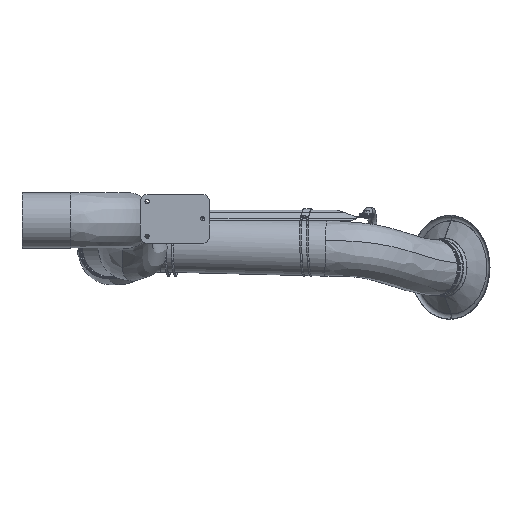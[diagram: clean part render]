
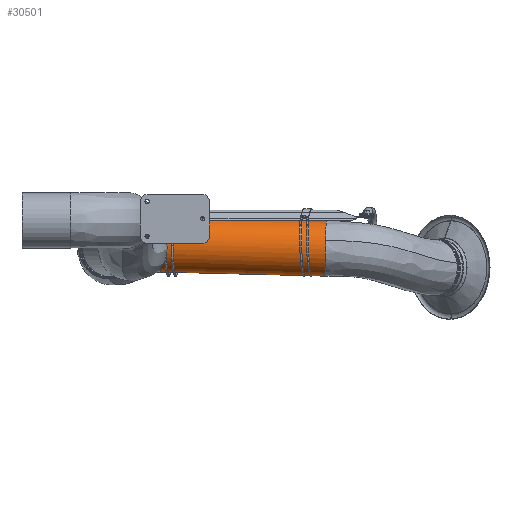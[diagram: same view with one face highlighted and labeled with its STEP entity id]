
A CAD part, left-side view. The second image highlights one B-rep face of the part: STEP entity #30501.
In plain terms, the highlighted free-form (B-spline) face has degree [3, 3] with [7, 6] control points.
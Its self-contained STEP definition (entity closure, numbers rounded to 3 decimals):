
#29599=CARTESIAN_POINT('',(665.795,-461.211,
-160.676));
#29600=CARTESIAN_POINT('',(665.795,-408.656,
-159.376));
#29601=CARTESIAN_POINT('',(665.795,-303.545,
-156.776));
#29602=CARTESIAN_POINT('',(665.795,-145.878,
-152.876));
#29603=CARTESIAN_POINT('',(665.795,-40.767,
-150.276));
#29604=CARTESIAN_POINT('',(665.795,11.789,
-148.976));
#29609=CARTESIAN_POINT('',(665.795,-463.19,-80.7));
#29610=DIRECTION('',(0.,-1.,-0.025));
#29611=DIRECTION('',(0.,-0.025,1.));
#29612=AXIS2_PLACEMENT_3D('',#29609,#29610,#29611);
#29617=CARTESIAN_POINT('',(665.795,-463.19,-80.7));
#29618=DIRECTION('',(0.,-1.,-0.025));
#29619=DIRECTION('',(-0.957,-0.007,0.291));
#29620=AXIS2_PLACEMENT_3D('',#29617,#29618,#29619);
#29641=CARTESIAN_POINT('',(665.795,-465.168,
-0.724));
#29642=CARTESIAN_POINT('',(665.795,-412.612,
0.576));
#29643=CARTESIAN_POINT('',(665.795,-307.501,
3.176));
#29644=CARTESIAN_POINT('',(665.795,-149.835,
7.076));
#29645=CARTESIAN_POINT('',(665.795,-44.723,
9.676));
#29646=CARTESIAN_POINT('',(665.795,7.832,10.976));
#29914=CARTESIAN_POINT('',(665.795,9.81,-69.));
#29915=DIRECTION('',(0.,1.,0.025));
#29916=DIRECTION('',(0.,0.025,-1.));
#29917=AXIS2_PLACEMENT_3D('',#29914,#29915,#29916);
#30406=CARTESIAN_POINT('',(665.795,11.789,
-148.976));
#30407=CARTESIAN_POINT('',(665.795,7.832,10.976));
#30408=VERTEX_POINT('',#30406);
#30409=VERTEX_POINT('',#30407);
#30432=VERTEX_POINT('',#29599);
#30433=VERTEX_POINT('',#29641);
#30442=CARTESIAN_POINT('',(589.249,-463.765,
-57.455));
#30443=VERTEX_POINT('',#30442);
#30446=CARTESIAN_POINT('',(670.819,-470.675,
-160.752));
#30447=CARTESIAN_POINT('',(670.819,-467.522,
-160.674));
#30448=CARTESIAN_POINT('',(670.819,-306.702,
-156.696));
#30449=CARTESIAN_POINT('',(670.819,-142.729,
-152.64));
#30450=CARTESIAN_POINT('',(670.819,18.091,
-148.662));
#30451=CARTESIAN_POINT('',(670.819,21.245,
-148.584));
#30452=CARTESIAN_POINT('',(621.684,-470.599,
-163.842));
#30453=CARTESIAN_POINT('',(621.684,-467.446,
-163.764));
#30454=CARTESIAN_POINT('',(621.684,-306.626,
-159.786));
#30455=CARTESIAN_POINT('',(621.684,-142.652,
-155.73));
#30456=CARTESIAN_POINT('',(621.684,18.168,
-151.752));
#30457=CARTESIAN_POINT('',(621.684,21.321,
-151.674));
#30458=CARTESIAN_POINT('',(585.795,-471.432,
-130.151));
#30459=CARTESIAN_POINT('',(585.795,-468.279,
-130.073));
#30460=CARTESIAN_POINT('',(585.795,-307.459,
-126.095));
#30461=CARTESIAN_POINT('',(585.795,-143.486,
-122.039));
#30462=CARTESIAN_POINT('',(585.795,17.334,
-118.061));
#30463=CARTESIAN_POINT('',(585.795,20.488,
-117.983));
#30464=CARTESIAN_POINT('',(585.795,-472.65,-80.934));
#30465=CARTESIAN_POINT('',(585.795,-469.496,-80.856));
#30466=CARTESIAN_POINT('',(585.795,-308.676,-76.878));
#30467=CARTESIAN_POINT('',(585.795,-144.703,-72.822));
#30468=CARTESIAN_POINT('',(585.795,16.117,-68.844));
#30469=CARTESIAN_POINT('',(585.795,19.27,-68.766));
#30470=CARTESIAN_POINT('',(585.795,-473.867,
-31.717));
#30471=CARTESIAN_POINT('',(585.795,-470.714,
-31.639));
#30472=CARTESIAN_POINT('',(585.795,-309.894,
-27.661));
#30473=CARTESIAN_POINT('',(585.795,-145.92,
-23.605));
#30474=CARTESIAN_POINT('',(585.795,14.9,
-19.627));
#30475=CARTESIAN_POINT('',(585.795,18.053,
-19.549));
#30476=CARTESIAN_POINT('',(621.684,-474.7,
1.974));
#30477=CARTESIAN_POINT('',(621.684,-471.547,
2.052));
#30478=CARTESIAN_POINT('',(621.684,-310.727,
6.03));
#30479=CARTESIAN_POINT('',(621.684,-146.754,
10.086));
#30480=CARTESIAN_POINT('',(621.684,14.066,14.064));
#30481=CARTESIAN_POINT('',(621.684,17.22,14.142));
#30482=CARTESIAN_POINT('',(670.819,-474.624,
-1.116));
#30483=CARTESIAN_POINT('',(670.819,-471.471,
-1.038));
#30484=CARTESIAN_POINT('',(670.819,-310.651,
2.94));
#30485=CARTESIAN_POINT('',(670.819,-146.677,
6.996));
#30486=CARTESIAN_POINT('',(670.819,14.143,10.974));
#30487=CARTESIAN_POINT('',(670.819,17.296,11.052));
#30488=(BOUNDED_SURFACE()B_SPLINE_SURFACE(3,3,((#30446,#30447,#30448,#30449,
#30450,#30451),(#30452,#30453,#30454,#30455,#30456,#30457),(#30458,#30459,
#30460,#30461,#30462,#30463),(#30464,#30465,#30466,#30467,#30468,#30469),
(#30470,#30471,#30472,#30473,#30474,#30475),(#30476,#30477,#30478,#30479,#30480,
#30481),(#30482,#30483,#30484,#30485,#30486,#30487)),.UNSPECIFIED.,.F.,.F.,.F.)B_SPLINE_SURFACE_WITH_KNOTS((4,3,4),(4,1,1,4),(0.,1.,2.),(-0.02,0.,1.,
1.02),.UNSPECIFIED.)GEOMETRIC_REPRESENTATION_ITEM()RATIONAL_B_SPLINE_SURFACE((
(1.187,1.187,1.187,1.187,
1.187,1.187),(0.938,0.938,
0.938,0.938,0.938,0.938),(
0.938,0.938,0.938,0.938,
0.938,0.938),(1.187,1.187,
1.187,1.187,1.187,1.187),(
0.938,0.938,0.938,0.938,
0.938,0.938),(0.938,0.938,
0.938,0.938,0.938,0.938),(
1.187,1.187,1.187,1.187,
1.187,1.187)))REPRESENTATION_ITEM('')SURFACE());
#30490=ORIENTED_EDGE('',*,*,#30489,.T.);
#30492=ORIENTED_EDGE('',*,*,#30491,.T.);
#30494=ORIENTED_EDGE('',*,*,#30493,.F.);
#30496=ORIENTED_EDGE('',*,*,#30495,.T.);
#30498=ORIENTED_EDGE('',*,*,#30497,.T.);
#30499=EDGE_LOOP('',(#30490,#30492,#30494,#30496,#30498));
#30500=FACE_OUTER_BOUND('',#30499,.F.);
#29605=B_SPLINE_CURVE_WITH_KNOTS('',3,(#29599,#29600,#29601,#29602,#29603,
#29604),.UNSPECIFIED.,.F.,.F.,(4,1,1,4),(0.,0.333,
0.667,1.),.UNSPECIFIED.);
#29613=CIRCLE('',#29612,80.);
#29621=CIRCLE('',#29620,80.);
#29647=B_SPLINE_CURVE_WITH_KNOTS('',3,(#29641,#29642,#29643,#29644,#29645,
#29646),.UNSPECIFIED.,.F.,.F.,(4,1,1,4),(0.,0.333,
0.667,1.),.UNSPECIFIED.);
#29918=CIRCLE('',#29917,80.);
#30489=EDGE_CURVE('',#30432,#30408,#29605,.T.);
#30491=EDGE_CURVE('',#30408,#30409,#29918,.T.);
#30493=EDGE_CURVE('',#30433,#30409,#29647,.T.);
#30495=EDGE_CURVE('',#30433,#30443,#29613,.T.);
#30497=EDGE_CURVE('',#30443,#30432,#29621,.T.);
#30501=ADVANCED_FACE('',(#30500),#30488,.T.);
